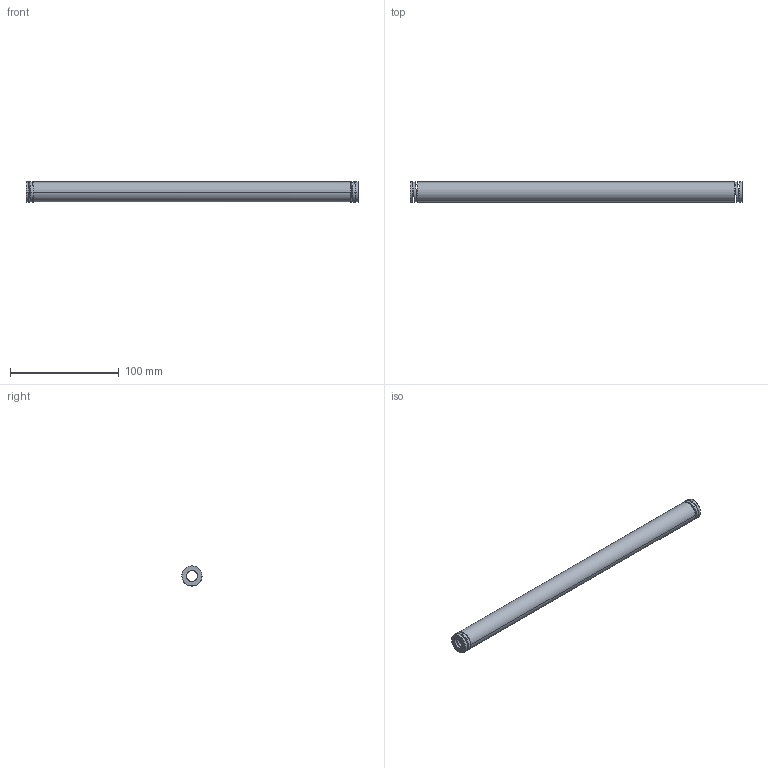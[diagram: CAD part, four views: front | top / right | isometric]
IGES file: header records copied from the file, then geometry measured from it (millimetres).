
Start section: START RECORD GO HERE.
Global section: file name: 392-B20-305.igs; native system: DASSAULT SYSTEMES CATIA V5 R20 - www.3ds.com; preprocessor: CATIA Version 5 Release 20 ; author: Utente; organization: NB04-ASUS; date: 20210812.160125; units: millimetre
Bounding box: 305 x 18.55 x 18.4 mm (x, y, z)
Surface area: 28918.7 mm2 (no closed solid volume)
Topology: 0 solids, 0 shells, 38 faces, 184 edges, 184 vertices
Faces by surface type: revolution 28, plane 10
